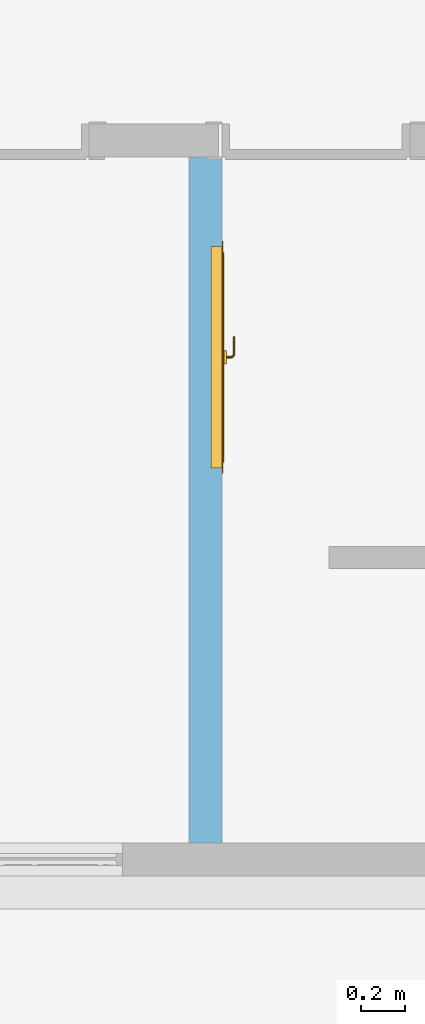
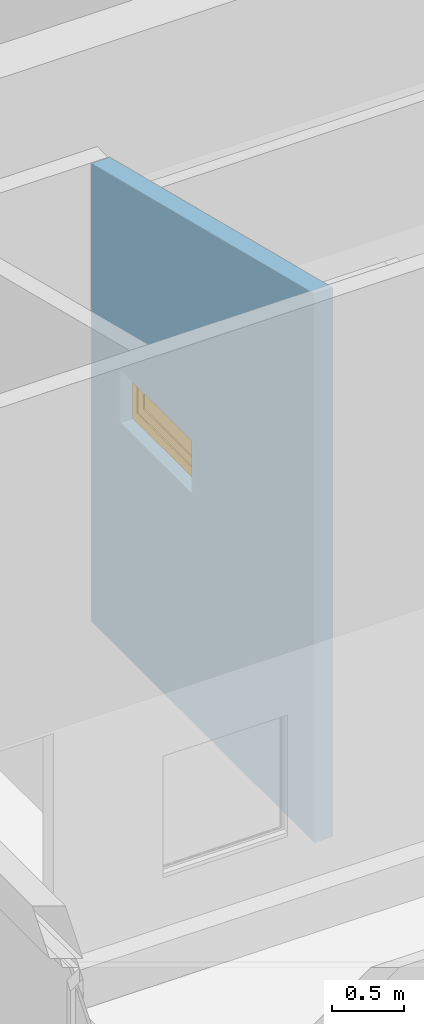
# One storey, part 144 of 153: 1 window, 1 opening, plus 1 element that does not belong to this part.
"""IFC4 building model written with IfcOpenShell, lengths in metres."""

from ifc_helpers import new_model, entity, si_unit, converted_unit, derived_unit, direction, frame, origin, place, context, subcontext, project, spatial, indexed_curve, outline, extrude, polygons, source, transform, mapped, material, constituent, constituent_set, type_object, type_shapes, element, fill, save


model = new_model("IFC4")

# Units and contexts
model_context = context("Model", 3, precision=1e-05, world=origin(), true_north=direction((6.123031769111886e-17, 1.0)))
body_context = subcontext(model_context, "Body", "Model", "MODEL_VIEW")
ifc_project = project(units=[si_unit("LENGTHUNIT", "METRE"), si_unit("AREAUNIT", "SQUARE_METRE"), si_unit("VOLUMEUNIT", "CUBIC_METRE"), converted_unit("PLANEANGLEUNIT", "DEGREE", entity("IfcRatioMeasure", 0.017453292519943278), si_unit("PLANEANGLEUNIT", "RADIAN"), dimensions=[0, 0, 0, 0, 0, 0, 0]), si_unit("MASSUNIT", "GRAM", prefix="KILO"), derived_unit("MASSDENSITYUNIT", [(si_unit("MASSUNIT", "GRAM", prefix="KILO"), 1), (si_unit("LENGTHUNIT", "METRE"), -3)]), derived_unit("MOMENTOFINERTIAUNIT", [(si_unit("LENGTHUNIT", "METRE"), 4)]), si_unit("TIMEUNIT", "SECOND"), si_unit("FREQUENCYUNIT", "HERTZ"), si_unit("THERMODYNAMICTEMPERATUREUNIT", "DEGREE_CELSIUS"), derived_unit("THERMALTRANSMITTANCEUNIT", [(si_unit("MASSUNIT", "GRAM", prefix="KILO"), 1), (si_unit("THERMODYNAMICTEMPERATUREUNIT", "KELVIN"), -1), (si_unit("TIMEUNIT", "SECOND"), -3)]), derived_unit("VOLUMETRICFLOWRATEUNIT", [(si_unit("LENGTHUNIT", "METRE"), 3), (si_unit("TIMEUNIT", "SECOND"), -1)]), derived_unit("MASSFLOWRATEUNIT", [(si_unit("MASSUNIT", "GRAM", prefix="KILO"), 1), (si_unit("TIMEUNIT", "SECOND"), -1)]), derived_unit("ROTATIONALFREQUENCYUNIT", [(si_unit("TIMEUNIT", "SECOND"), -1)]), si_unit("ELECTRICCURRENTUNIT", "AMPERE"), si_unit("ELECTRICVOLTAGEUNIT", "VOLT"), si_unit("POWERUNIT", "WATT"), si_unit("FORCEUNIT", "NEWTON", prefix="KILO"), si_unit("ILLUMINANCEUNIT", "LUX"), si_unit("LUMINOUSFLUXUNIT", "LUMEN"), si_unit("LUMINOUSINTENSITYUNIT", "CANDELA"), derived_unit("USERDEFINED", [(si_unit("MASSUNIT", "GRAM", prefix="KILO"), -1), (si_unit("LENGTHUNIT", "METRE"), -2), (si_unit("TIMEUNIT", "SECOND"), 3), (si_unit("LUMINOUSFLUXUNIT", "LUMEN"), 1)]), derived_unit("SOUNDPOWERUNIT", [(si_unit("MASSUNIT", "GRAM", prefix="KILO"), 1), (si_unit("LENGTHUNIT", "METRE"), 2), (si_unit("TIMEUNIT", "SECOND"), -3)]), derived_unit("SOUNDPRESSUREUNIT", [(si_unit("MASSUNIT", "GRAM", prefix="KILO"), 1), (si_unit("LENGTHUNIT", "METRE"), -1), (si_unit("TIMEUNIT", "SECOND"), -2)]), derived_unit("LINEARVELOCITYUNIT", [(si_unit("LENGTHUNIT", "METRE"), 1), (si_unit("TIMEUNIT", "SECOND"), -1)]), si_unit("PRESSUREUNIT", "PASCAL"), derived_unit("USERDEFINED", [(si_unit("LENGTHUNIT", "METRE"), -2), (si_unit("MASSUNIT", "GRAM", prefix="KILO"), 1), (si_unit("TIMEUNIT", "SECOND"), -2)]), derived_unit("LINEARFORCEUNIT", [(si_unit("MASSUNIT", "GRAM", prefix="KILO"), 1), (si_unit("LENGTHUNIT", "METRE"), 1), (si_unit("TIMEUNIT", "SECOND"), -2), (si_unit("LENGTHUNIT", "METRE"), -1)]), derived_unit("PLANARFORCEUNIT", [(si_unit("MASSUNIT", "GRAM", prefix="KILO"), 1), (si_unit("LENGTHUNIT", "METRE"), 1), (si_unit("TIMEUNIT", "SECOND"), -2), (si_unit("LENGTHUNIT", "METRE"), -2)])], contexts=[model_context])

# Site, building, storey
site_placement = place(None, origin())
site = spatial("IfcSite", under=ifc_project, at=site_placement, Name="Superficie", CompositionType="ELEMENT")
building_placement = place(site_placement, origin())
building = spatial("IfcBuilding", under=site, at=building_placement, CompositionType="ELEMENT")
storey_placement = place(building_placement, frame((0.0, 0.0, 3.5999999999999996)))
storey = spatial("IfcBuildingStorey", under=building, at=storey_placement, Name="Nivel 1", CompositionType="ELEMENT", Elevation=3.5999999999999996)

# Wall, opening, window
ifc_material_1 = material(Name="Muro por defecto", Category="Varios")
wall_type = type_object("IfcWallType", Name="Muro básico:Por defecto - 15 cm 2", PredefinedType="STANDARD")
wall_placement = place(storey_placement, frame((6.656001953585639, 5.775829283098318, 0.5200000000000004), z_axis=(0.0, 0.0, 1.0), x_axis=(0.0, 1.0, 0.0)))
wall = element("IfcWall", 1, at=wall_placement, inside=storey, type_object=wall_type, material=ifc_material_1, Name="Muro básico:Por defecto - 15 cm 2", ObjectType="Muro básico:Por defecto - 15 cm 2", PredefinedType="NOTDEFINED", context=body_context, shape_type="Tessellation", body=[
    polygons([(3.100000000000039, -0.07499999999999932, 3.88212956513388), (4.2231818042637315e-14, -0.07499999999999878, 4.655046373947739), (4.2231818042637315e-14, -0.07499999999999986, -5.414335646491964e-16), (3.100000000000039, -0.07499999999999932, -5.414335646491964e-16), (1.6950000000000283, -0.07500000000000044, 1.93), (1.6950000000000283, -0.07500000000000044, 2.379999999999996), (2.6950000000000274, -0.07499999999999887, 2.379999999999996), (2.6950000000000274, -0.07499999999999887, 1.93), (4.2231818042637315e-14, 0.07500000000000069, 4.655046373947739), (3.1000000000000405, 0.07500000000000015, 3.88212956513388), (3.1000000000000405, 0.07500000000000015, -5.414335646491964e-16), (1.4077272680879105e-14, 0.07500000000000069, -5.414335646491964e-16), (1.6950000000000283, 0.07500000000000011, 2.379999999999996), (1.6950000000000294, 0.07500000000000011, 1.93), (2.6950000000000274, 0.0750000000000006, 1.93), (2.6950000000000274, 0.0750000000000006, 2.379999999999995), (3.100000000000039, -0.06000000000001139, -5.414335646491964e-16)], [[[1, 2, 3, 4], [5, 6, 7, 8]], [[9, 10, 11, 12], [13, 14, 15, 16]], [[2, 1, 10, 9]], [[2, 9, 12, 3]], [[1, 4, 17, 11, 10]], [[5, 14, 13, 6]], [[6, 13, 16, 7]], [[14, 5, 8, 15]], [[4, 3, 12, 11, 17]], [[15, 8, 7, 16]]], closed=True),
])
opening_placement = place(wall_placement, frame((1.6950000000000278, -0.07500000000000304, 1.93)))
opening = element("IfcOpeningElement", 2, at=opening_placement, cuts=wall, Name="Ventana basculante:45 x 100mm 4:1", PredefinedType="OPENING", context=body_context, shape_type="SweptSolid", body=[
    extrude(outline(indexed_curve([(0.0, 2.5738352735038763e-33), (0.44999999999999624, 2.5738352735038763e-33), (0.4499999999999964, 0.9999999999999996), (0.0, 0.9999999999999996), (0.0, 2.5738352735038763e-33)], self_intersect=False)), frame((0.0, 0.0, 0.0), z_axis=(0.0, 1.0, 0.0), x_axis=(0.0, 0.0, 1.0)), (0.0, 0.0, 1.0), 0.14999999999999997),
])
ifc_material_2 = material(Name="<Unnamed>")
ifc_constituent_1 = constituent(ifc_material_2, Name="<Unnamed>")
ifc_material_3 = material(Name="Madera - Castaño", Category="Madera")
ifc_constituent_2 = constituent(ifc_material_3, Name="Madera - Castaño", Category="Madera")
ifc_material_4 = material(Name="Vidrio", Category="Vidrio")
ifc_constituent_3 = constituent(ifc_material_4, Name="Vidrio", Category="Vidrio")
ifc_constituent_set_1 = constituent_set(constituents=[ifc_constituent_1, ifc_constituent_2, ifc_constituent_3], Name="MaterialConstituentSet")
ifc_constituent_4 = constituent(ifc_material_2, Name="Tirador")
ifc_constituent_5 = constituent(ifc_material_3, Name="Marco/montante", Category="Madera")
ifc_constituent_6 = constituent(ifc_material_4, Name="Cristal", Category="Vidrio")
ifc_constituent_7 = constituent(ifc_material_3, Name="Cubrejuntas", Category="Madera")
ifc_constituent_set_2 = constituent_set(constituents=[ifc_constituent_4, ifc_constituent_5, ifc_constituent_6, ifc_constituent_7], Name="MaterialConstituentSet")
window_type = type_object("IfcWindowType", Name="Ventana basculante:45 x 100mm 4", PartitioningType="NOTDEFINED", PredefinedType="WINDOW", material=ifc_constituent_set_2)
shared_shape = source(origin(), body_context, "Body", "Tessellation", [
    polygons([(0.4949999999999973, -0.019999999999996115, 0.07999999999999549), (0.49499999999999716, -0.03900000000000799, 0.0799999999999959), (0.49517037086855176, -0.03900000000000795, 0.08129409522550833), (0.4956698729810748, -0.03900000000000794, 0.08249999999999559), (0.49646446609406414, -0.03900000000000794, 0.08353553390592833), (0.4974999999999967, -0.03900000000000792, 0.08433012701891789), (0.49870590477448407, -0.03900000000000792, 0.08482962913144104), (0.4999999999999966, -0.03900000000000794, 0.08499999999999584), (0.5012940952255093, -0.03900000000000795, 0.0848296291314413), (0.5024999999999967, -0.03900000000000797, 0.08433012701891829), (0.5035355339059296, -0.039000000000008, 0.08353553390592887), (0.5043301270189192, -0.03900000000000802, 0.08249999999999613), (0.5048296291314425, -0.039000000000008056, 0.08129409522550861), (0.5049999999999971, -0.039000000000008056, 0.0799999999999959), (0.5049999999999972, -0.019999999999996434, 0.07999999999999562), (0.5048296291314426, -0.019999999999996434, 0.0812940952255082), (0.5043301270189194, -0.019999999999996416, 0.08249999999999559), (0.5035355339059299, -0.019999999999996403, 0.08353553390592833), (0.5024999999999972, -0.019999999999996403, 0.08433012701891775), (0.5012940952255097, -0.019999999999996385, 0.0848296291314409), (0.4999999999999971, -0.019999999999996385, 0.08499999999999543), (0.49870590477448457, -0.019999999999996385, 0.08482962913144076), (0.49749999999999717, -0.019999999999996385, 0.08433012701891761), (0.4964644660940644, -0.019999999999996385, 0.08353553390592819), (0.495669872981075, -0.019999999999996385, 0.08249999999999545), (0.49517037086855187, -0.019999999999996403, 0.08129409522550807), (0.4951703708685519, -0.019999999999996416, 0.0787059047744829), (0.495669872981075, -0.019999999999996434, 0.07749999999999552), (0.49646446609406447, -0.01999999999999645, 0.07646446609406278), (0.4974999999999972, -0.01999999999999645, 0.07566987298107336), (0.4987059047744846, -0.01999999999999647, 0.0751703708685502), (0.4999999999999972, -0.01999999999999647, 0.07499999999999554), (0.5012940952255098, -0.01999999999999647, 0.0751703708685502), (0.5024999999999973, -0.01999999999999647, 0.07566987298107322), (0.50353553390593, -0.01999999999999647, 0.07646446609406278), (0.5043301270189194, -0.01999999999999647, 0.07749999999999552), (0.5048296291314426, -0.01999999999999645, 0.0787059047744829), (0.5048296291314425, -0.039000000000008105, 0.07870590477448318), (0.5043301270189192, -0.03900000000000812, 0.07749999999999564), (0.5035355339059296, -0.03900000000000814, 0.07646446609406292), (0.5024999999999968, -0.03900000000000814, 0.0756698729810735), (0.5012940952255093, -0.03900000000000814, 0.07517037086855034), (0.4999999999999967, -0.03900000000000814, 0.0749999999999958), (0.4987059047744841, -0.03900000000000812, 0.0751703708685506), (0.49749999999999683, -0.03900000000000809, 0.0756698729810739), (0.49646446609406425, -0.03900000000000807, 0.07646446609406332), (0.49566987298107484, -0.039000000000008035, 0.07749999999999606), (0.49517037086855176, -0.039000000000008, 0.07870590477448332), (0.4978134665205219, -0.04950000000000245, 0.0799999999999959), (0.505499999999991, -0.05718653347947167, 0.07999999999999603), (0.5159999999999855, -0.05999999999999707, 0.07999999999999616), (0.5159999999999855, -0.05982962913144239, 0.08129409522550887), (0.5159999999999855, -0.05933012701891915, 0.08249999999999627), (0.5159999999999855, -0.058535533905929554, 0.083535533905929), (0.5159999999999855, -0.057499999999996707, 0.08433012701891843), (0.5159999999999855, -0.05629409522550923, 0.08482962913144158), (0.5159999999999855, -0.0549999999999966, 0.0849999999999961), (0.5159999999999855, -0.05370590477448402, 0.0848296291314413), (0.5159999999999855, -0.05249999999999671, 0.08433012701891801), (0.5159999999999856, -0.051464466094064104, 0.08353553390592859), (0.5159999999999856, -0.05066987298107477, 0.08249999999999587), (0.5159999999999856, -0.05017037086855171, 0.08129409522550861), (0.5159999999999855, -0.049999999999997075, 0.07999999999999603), (0.5082218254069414, -0.04677817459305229, 0.0799999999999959), (0.4968195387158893, -0.04579061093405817, 0.0799999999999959), (0.5092093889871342, -0.05818046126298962, 0.07999999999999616), (0.495909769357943, -0.04239530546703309, 0.07999999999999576), (0.5126046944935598, -0.059090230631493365, 0.07999999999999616), (0.49545488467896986, -0.04069765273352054, 0.07999999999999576), (0.5143023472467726, -0.059545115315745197, 0.07999999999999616), (0.501496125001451, -0.045627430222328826, 0.08499971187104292), (0.5127988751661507, -0.04867405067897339, 0.07999999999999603), (0.5097965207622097, -0.054666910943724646, 0.08492715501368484), (0.4983088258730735, -0.043810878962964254, 0.08442200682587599), (0.5121968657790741, -0.056343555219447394, 0.08468163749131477), (0.5016567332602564, -0.05334326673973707, 0.07999999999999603), (0.508049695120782, -0.050347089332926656, 0.08451656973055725), (0.50519669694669, -0.04748027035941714, 0.08445711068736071), (0.506610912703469, -0.042889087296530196, 0.07999999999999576), (0.5008697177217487, -0.05055941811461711, 0.08396920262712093), (0.5038310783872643, -0.05322550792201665, 0.08419526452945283), (0.5123303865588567, -0.05102443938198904, 0.08363981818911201), (0.49831337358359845, -0.04731749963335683, 0.08352628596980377), (0.5159999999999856, -0.05017037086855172, 0.07870590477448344), (0.5159999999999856, -0.050669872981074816, 0.07749999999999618), (0.5159999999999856, -0.05146446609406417, 0.07646446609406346), (0.5159999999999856, -0.05249999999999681, 0.07566987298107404), (0.5159999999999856, -0.05370590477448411, 0.07517037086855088), (0.5159999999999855, -0.054999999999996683, 0.07499999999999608), (0.5159999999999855, -0.056294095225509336, 0.0751703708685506), (0.5159999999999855, -0.05749999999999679, 0.07566987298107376), (0.5159999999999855, -0.05853553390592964, 0.0764644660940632), (0.5159999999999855, -0.059330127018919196, 0.07749999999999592), (0.5159999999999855, -0.05982962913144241, 0.07870590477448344), (0.5014961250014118, -0.04562743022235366, 0.07500028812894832), (0.5097965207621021, -0.054666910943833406, 0.07507284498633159), (0.4983088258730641, -0.04381087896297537, 0.07557799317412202), (0.5121968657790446, -0.05634355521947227, 0.07531836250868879), (0.5080496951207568, -0.050347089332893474, 0.07548343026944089), (0.5051966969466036, -0.04748027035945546, 0.07554288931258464), (0.5008697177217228, -0.050559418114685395, 0.07603079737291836), (0.5038310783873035, -0.053225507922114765, 0.0758047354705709), (0.5123303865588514, -0.0510244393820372, 0.07636018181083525), (0.49831337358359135, -0.04731749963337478, 0.07647371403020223), (0.594999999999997, -0.059999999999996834, 0.07999999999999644), (0.594999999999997, -0.05982962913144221, 0.07870590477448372), (0.594999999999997, -0.05933012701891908, 0.07749999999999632), (0.5949999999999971, -0.05853553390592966, 0.0764644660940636), (0.5949999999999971, -0.057499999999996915, 0.07566987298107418), (0.5949999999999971, -0.05629409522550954, 0.07517037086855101), (0.5949999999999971, -0.05499999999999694, 0.07499999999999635), (0.5949999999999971, -0.05370590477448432, 0.07517037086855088), (0.5949999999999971, -0.05249999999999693, 0.07566987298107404), (0.5949999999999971, -0.05146446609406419, 0.07646446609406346), (0.5949999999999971, -0.0506698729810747, 0.07749999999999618), (0.5949999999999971, -0.05017037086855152, 0.07870590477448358), (0.5949999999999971, -0.04999999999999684, 0.0799999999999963), (0.5949999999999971, -0.05017037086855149, 0.08129409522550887), (0.5949999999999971, -0.05066987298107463, 0.08249999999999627), (0.5949999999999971, -0.05146446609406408, 0.083535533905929), (0.5949999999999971, -0.05249999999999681, 0.08433012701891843), (0.5949999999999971, -0.053705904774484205, 0.08482962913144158), (0.594999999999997, -0.0549999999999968, 0.08499999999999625), (0.594999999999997, -0.0562940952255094, 0.08482962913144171), (0.594999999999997, -0.05749999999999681, 0.08433012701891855), (0.594999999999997, -0.058535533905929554, 0.083535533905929), (0.594999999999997, -0.05933012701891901, 0.08249999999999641), (0.594999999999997, -0.05982962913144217, 0.08129409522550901), (0.469999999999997, -0.019999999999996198, 0.09499999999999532), (0.46999999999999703, -0.019999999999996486, 0.06499999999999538), (0.5299999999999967, -0.019999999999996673, 0.0649999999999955), (0.5299999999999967, -0.019999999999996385, 0.09499999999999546), (0.46999999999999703, -0.009999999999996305, 0.09499999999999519), (0.5299999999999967, -0.00999999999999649, 0.09499999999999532), (0.5299999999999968, -0.009999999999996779, 0.06499999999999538), (0.4699999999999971, -0.009999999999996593, 0.06499999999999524)], [[[3, 26, 1, 2]], [[4, 25, 26, 3]], [[24, 5, 6, 23]], [[4, 5, 24, 25]], [[23, 6, 7, 22]], [[22, 7, 8, 21]], [[10, 19, 20, 9]], [[11, 18, 19, 10]], [[17, 12, 13, 16]], [[11, 12, 17, 18]], [[16, 13, 14, 15]], [[20, 21, 8, 9]], [[38, 37, 15, 14]], [[39, 36, 37, 38]], [[35, 40, 41, 34]], [[39, 40, 35, 36]], [[34, 41, 42, 33]], [[33, 42, 43, 32]], [[45, 30, 31, 44]], [[46, 29, 30, 45]], [[28, 47, 48, 27]], [[46, 47, 28, 29]], [[27, 48, 2, 1]], [[31, 32, 43, 44]], [[3, 69, 4]], [[83, 71, 74]], [[76, 50, 81]], [[80, 76, 81]], [[6, 5, 67]], [[4, 67, 5]], [[73, 66, 75]], [[74, 6, 67]], [[6, 74, 7]], [[72, 64, 77]], [[13, 71, 79]], [[14, 13, 79]], [[58, 75, 57]], [[74, 71, 11]], [[9, 8, 74]], [[79, 71, 78]], [[68, 70, 53]], [[74, 11, 10]], [[68, 53, 54]], [[80, 71, 83]], [[71, 12, 11]], [[53, 70, 52]], [[9, 74, 10]], [[7, 74, 8]], [[12, 71, 13]], [[73, 81, 50]], [[57, 75, 56]], [[55, 56, 75]], [[83, 65, 49]], [[75, 58, 59]], [[65, 83, 74]], [[54, 55, 68]], [[78, 77, 64]], [[55, 75, 68]], [[78, 64, 79]], [[52, 70, 51]], [[78, 81, 77]], [[66, 68, 75]], [[67, 65, 74]], [[49, 76, 80]], [[80, 78, 71]], [[50, 66, 73]], [[69, 67, 4]], [[82, 62, 63]], [[77, 73, 82]], [[75, 60, 73]], [[63, 72, 82]], [[82, 60, 61]], [[3, 2, 69]], [[61, 62, 82]], [[75, 59, 60]], [[80, 81, 78]], [[82, 73, 60]], [[73, 77, 81]], [[80, 83, 49]], [[77, 82, 72]], [[96, 103, 86]], [[72, 63, 103]], [[42, 97, 43]], [[41, 40, 97]], [[104, 65, 97]], [[70, 68, 93]], [[39, 95, 40]], [[94, 51, 70]], [[95, 39, 38]], [[102, 100, 99]], [[65, 67, 97]], [[95, 97, 40]], [[69, 2, 48]], [[65, 104, 49]], [[101, 104, 95]], [[45, 67, 46]], [[97, 44, 43]], [[66, 96, 98]], [[45, 97, 67]], [[44, 97, 45]], [[42, 41, 97]], [[100, 101, 95]], [[79, 64, 100]], [[102, 101, 100]], [[95, 79, 100]], [[99, 103, 96]], [[72, 103, 99]], [[95, 38, 79]], [[68, 66, 98]], [[84, 103, 63]], [[86, 87, 98]], [[67, 47, 46]], [[50, 96, 66]], [[67, 69, 47]], [[47, 69, 48]], [[88, 98, 87]], [[102, 96, 50]], [[98, 88, 89]], [[98, 90, 91]], [[64, 72, 99]], [[92, 68, 91]], [[91, 68, 98]], [[104, 97, 95]], [[96, 86, 98]], [[93, 94, 70]], [[100, 64, 99]], [[86, 103, 85]], [[96, 102, 99]], [[14, 79, 38]], [[93, 68, 92]], [[90, 98, 89]], [[49, 104, 101]], [[50, 76, 102]], [[102, 76, 101]], [[85, 103, 84]], [[49, 101, 76]], [[109, 110, 111, 112, 113, 114, 115, 116, 117, 118, 119, 120, 121, 122, 123, 124, 125, 126, 127, 128, 105, 106, 107, 108]], [[132, 131, 135, 134]], [[51, 105, 128, 52]], [[127, 53, 52, 128]], [[54, 126, 125, 55]], [[127, 126, 54, 53]], [[55, 125, 124, 56]], [[56, 124, 123, 57]], [[121, 120, 60, 59]], [[122, 121, 59, 58]], [[118, 117, 63, 62]], [[119, 118, 62, 61]], [[120, 119, 61, 60]], [[58, 57, 123, 122]], [[63, 117, 116, 84]], [[84, 116, 115, 85]], [[113, 112, 88, 87]], [[114, 113, 87, 86]], [[115, 114, 86, 85]], [[88, 112, 111, 89]], [[109, 108, 92, 91]], [[110, 109, 91, 90]], [[106, 105, 51, 94]], [[107, 106, 94, 93]], [[108, 107, 93, 92]], [[90, 89, 111, 110]], [[129, 130, 131, 132], [22, 21, 20, 19, 18, 17, 16, 15, 37, 36, 35, 34, 33, 32, 31, 30, 29, 28, 27, 1, 26, 25, 24, 23]], [[135, 136, 133, 134]], [[130, 129, 133, 136]], [[131, 130, 136, 135]], [[129, 132, 134, 133]]], closed=True),
    polygons([(0.03499999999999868, 0.0399999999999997, 0.4149999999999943), (0.03499999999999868, -4.2299497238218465e-17, 0.4149999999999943), (0.03499999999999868, -4.2299497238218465e-17, 0.05499999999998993), (0.03499999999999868, 0.0399999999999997, 0.05499999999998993), (0.9649999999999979, -4.2299497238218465e-17, 0.4149999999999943), (0.9649999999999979, -4.2299497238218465e-17, 0.05499999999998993), (-1.218225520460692e-15, -4.2299497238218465e-17, 0.44999999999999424), (-1.218225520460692e-15, -4.2299497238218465e-17, -8.256861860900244e-15), (0.9999999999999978, -4.2299497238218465e-17, -8.256861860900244e-15), (0.9999999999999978, -4.2299497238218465e-17, 0.44999999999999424), (0.9649999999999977, 0.0399999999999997, 0.05499999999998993), (0.9649999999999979, 0.0399999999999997, 0.4149999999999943), (0.05999999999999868, 0.0399999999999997, 0.0799999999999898), (0.05999999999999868, 0.0399999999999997, 0.3899999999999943), (0.9399999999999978, 0.0399999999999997, 0.3899999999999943), (0.9399999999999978, 0.0399999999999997, 0.07999999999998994), (0.05999999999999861, 0.04999999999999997, 0.3899999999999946), (0.9399999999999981, 0.04999999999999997, 0.3899999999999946), (0.05999999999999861, 0.04999999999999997, 0.07999999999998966), (0.9399999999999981, 0.04999999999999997, 0.0799999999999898), (-1.218225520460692e-15, 0.050000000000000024, -8.256861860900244e-15), (-1.218225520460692e-15, 0.04999999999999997, 0.44999999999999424), (0.9999999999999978, 0.04999999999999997, 0.44999999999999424), (0.9999999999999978, 0.05, -8.256861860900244e-15)], [[[1, 2, 3, 4]], [[7, 8, 9, 10], [3, 2, 5, 6]], [[4, 3, 6, 11]], [[1, 4, 11, 12], [13, 14, 15, 16]], [[14, 17, 18, 15]], [[17, 14, 13, 19]], [[19, 13, 16, 20]], [[21, 22, 23, 24], [17, 19, 20, 18]], [[7, 22, 21, 8]], [[24, 9, 8, 21]], [[11, 6, 5, 12]], [[20, 16, 15, 18]], [[23, 10, 9, 24]], [[2, 1, 12, 5]], [[22, 7, 10, 23]]], closed=True),
    polygons([(0.8650000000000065, 0.04000000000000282, 0.31499999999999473), (0.13499999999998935, 0.04000000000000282, 0.31499999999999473), (0.13499999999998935, 0.026000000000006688, 0.31499999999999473), (0.8650000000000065, 0.026000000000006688, 0.31499999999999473), (0.8650000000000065, 0.04000000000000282, 0.15499999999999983), (0.8650000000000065, 0.026000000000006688, 0.15499999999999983), (0.13499999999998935, 0.026000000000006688, 0.15499999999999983), (0.13499999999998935, 0.04000000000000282, 0.15499999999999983)], [[[1, 2, 3, 4]], [[5, 6, 7, 8]], [[2, 1, 5, 8]], [[3, 2, 8, 7]], [[4, 3, 7, 6]], [[1, 4, 6, 5]]], closed=True),
    polygons([(0.12499999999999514, -2.6225688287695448e-15, 0.32499999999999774), (0.12499999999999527, 0.026000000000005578, 0.32499999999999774), (0.1249999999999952, 0.026000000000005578, 0.14499999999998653), (0.12499999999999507, -2.6310287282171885e-15, 0.1449999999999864), (0.14999999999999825, 0.026000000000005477, 0.2999999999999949), (0.14999999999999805, -2.724087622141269e-15, 0.2999999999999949), (0.14999999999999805, -2.724087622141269e-15, 0.16999999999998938), (0.14999999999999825, 0.026000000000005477, 0.16999999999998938), (0.8750000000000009, 0.026000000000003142, 0.14499999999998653), (0.8750000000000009, -5.067479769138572e-15, 0.14499999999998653), (0.8499999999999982, -4.9575010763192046e-15, 0.16999999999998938), (0.8499999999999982, 0.0260000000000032, 0.16999999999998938), (0.8750000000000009, 0.026000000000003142, 0.32499999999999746), (0.8750000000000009, -5.059019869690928e-15, 0.32499999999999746), (0.8499999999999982, -4.982880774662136e-15, 0.2999999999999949), (0.8499999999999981, 0.026000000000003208, 0.2999999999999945)], [[[1, 2, 3, 4]], [[5, 6, 7, 8]], [[4, 3, 9, 10]], [[8, 7, 11, 12]], [[10, 9, 13, 14]], [[12, 11, 15, 16]], [[14, 13, 2, 1]], [[4, 10, 14, 1], [6, 15, 11, 7]], [[16, 15, 6, 5]], [[2, 13, 9, 3], [8, 12, 16, 5]]], closed=True),
    polygons([(0.08499999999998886, -5.921929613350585e-17, 0.36500000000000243), (0.08499999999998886, 0.040000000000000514, 0.36500000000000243), (0.08499999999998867, 0.040000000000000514, 0.10499999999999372), (0.08499999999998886, 4.906741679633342e-16, 0.10499999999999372), (0.12499999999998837, 0.04000000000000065, 0.32500000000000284), (0.12499999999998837, 5.921929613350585e-17, 0.32500000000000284), (0.12499999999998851, 5.921929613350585e-17, 0.1449999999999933), (0.12499999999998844, 0.04000000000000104, 0.1449999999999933), (0.1499999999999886, 0.050000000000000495, 0.3000000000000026), (0.14999999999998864, 0.040000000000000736, 0.3000000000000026), (0.14999999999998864, 0.040000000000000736, 0.1699999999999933), (0.1499999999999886, 0.050000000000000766, 0.1699999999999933), (0.07499999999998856, 0.04000000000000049, 0.3750000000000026), (0.07499999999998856, 0.05000000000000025, 0.3750000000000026), (0.07499999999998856, 0.05000000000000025, 0.09499999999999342), (0.07499999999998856, 0.04000000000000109, 0.09499999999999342), (0.9150000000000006, 0.040000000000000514, 0.10499999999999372), (0.9150000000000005, 4.906741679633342e-16, 0.10499999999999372), (0.8750000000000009, 5.921929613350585e-17, 0.1449999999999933), (0.8750000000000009, 0.04000000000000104, 0.1449999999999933), (0.8500000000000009, 0.040000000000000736, 0.16999999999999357), (0.8500000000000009, 0.050000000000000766, 0.1699999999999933), (0.9250000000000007, 0.05000000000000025, 0.09499999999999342), (0.9250000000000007, 0.04000000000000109, 0.09499999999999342), (0.9150000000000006, 0.040000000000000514, 0.36500000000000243), (0.9150000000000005, -5.921929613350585e-17, 0.36500000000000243), (0.8750000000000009, 5.921929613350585e-17, 0.32500000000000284), (0.875000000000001, 0.04000000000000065, 0.32500000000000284), (0.8500000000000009, 0.040000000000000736, 0.3000000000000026), (0.8500000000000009, 0.050000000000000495, 0.3000000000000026), (0.9250000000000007, 0.05000000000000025, 0.37500000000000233), (0.9250000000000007, 0.04000000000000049, 0.37500000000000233)], [[[1, 2, 3, 4]], [[5, 6, 7, 8]], [[9, 10, 11, 12]], [[13, 14, 15, 16]], [[4, 3, 17, 18]], [[8, 7, 19, 20]], [[12, 11, 21, 22]], [[16, 15, 23, 24]], [[18, 17, 25, 26]], [[20, 19, 27, 28]], [[22, 21, 29, 30]], [[24, 23, 31, 32]], [[26, 25, 2, 1]], [[4, 18, 26, 1], [6, 27, 19, 7]], [[28, 27, 6, 5]], [[8, 20, 28, 5], [10, 29, 21, 11]], [[30, 29, 10, 9]], [[14, 31, 23, 15], [12, 22, 30, 9]], [[32, 31, 14, 13]], [[16, 24, 32, 13], [2, 25, 17, 3]]], closed=True),
    polygons([(0.9150000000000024, 0.04000000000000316, 0.3650000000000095), (0.9150000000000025, 3.392419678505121e-15, 0.36500000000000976), (0.08499999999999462, 6.065747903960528e-15, 0.36500000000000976), (0.0849999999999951, 0.04000000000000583, 0.3650000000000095), (0.08499999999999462, 6.065747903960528e-15, 0.10499999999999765), (0.08499999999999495, 0.04000000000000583, 0.10499999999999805), (0.9150000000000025, 3.392419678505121e-15, 0.10499999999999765), (0.0949999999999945, 4.9321213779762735e-15, 0.11499999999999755), (0.9050000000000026, 2.3264723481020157e-15, 0.11499999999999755), (0.9050000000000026, 3.3416602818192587e-15, 0.35500000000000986), (0.0949999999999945, 5.964229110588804e-15, 0.35500000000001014), (0.9150000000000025, 0.04000000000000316, 0.10499999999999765), (0.04999999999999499, 0.040000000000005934, 0.4000000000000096), (0.9500000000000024, 0.04000000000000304, 0.4000000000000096), (0.9500000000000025, 0.04000000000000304, 0.0699999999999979), (0.04999999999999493, 0.040000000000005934, 0.06999999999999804), (0.9050000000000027, -0.00999999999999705, 0.35500000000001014), (0.09499999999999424, -0.009999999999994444, 0.35500000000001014), (0.09499999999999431, -0.009999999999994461, 0.11499999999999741), (0.9050000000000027, -0.009999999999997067, 0.11499999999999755), (0.02499999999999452, -0.009999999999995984, 0.04499999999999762), (0.9750000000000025, -0.009999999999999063, 0.04499999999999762), (0.9750000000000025, -0.009999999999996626, 0.42500000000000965), (0.02499999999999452, -0.009999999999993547, 0.42500000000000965), (0.024999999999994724, 6.446443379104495e-15, 0.42500000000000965), (0.024999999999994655, 6.437983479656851e-15, 0.04499999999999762), (0.04999999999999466, 4.788303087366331e-15, 0.06999999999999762), (0.9500000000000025, 1.8780976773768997e-15, 0.06999999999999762), (0.9500000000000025, 3.2993607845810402e-15, 0.4000000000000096), (0.04999999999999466, 6.2011062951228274e-15, 0.4000000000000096), (0.9750000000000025, 3.392419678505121e-15, 0.42500000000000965), (0.9750000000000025, 3.392419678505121e-15, 0.04499999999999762)], [[[1, 2, 3, 4]], [[4, 3, 5, 6]], [[3, 2, 7, 5], [8, 9, 10, 11]], [[6, 5, 7, 12]], [[13, 14, 15, 16], [6, 12, 1, 4]], [[10, 17, 18, 11]], [[11, 18, 19, 8]], [[21, 22, 23, 24], [18, 17, 20, 19]], [[8, 19, 20, 9]], [[24, 25, 26, 21]], [[25, 31, 32, 26], [27, 28, 29, 30]], [[21, 26, 32, 22]], [[30, 13, 16, 27]], [[27, 16, 15, 28]], [[12, 7, 2, 1]], [[9, 20, 17, 10]], [[22, 32, 31, 23]], [[28, 15, 14, 29]], [[29, 14, 13, 30]], [[23, 31, 25, 24]]], closed=True),
    polygons([(1.0250092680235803, -4.416067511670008e-15, 0.4750092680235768), (1.0250092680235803, -0.005000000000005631, 0.4750092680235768), (1.0250092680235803, -0.005000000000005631, -0.025009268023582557), (1.0250092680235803, -4.390687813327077e-15, -0.025009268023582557), (0.9899907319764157, -0.005000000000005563, 0.010009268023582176), (0.010009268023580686, -0.005000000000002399, 0.010009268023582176), (0.010009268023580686, -0.005000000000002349, 0.43999073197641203), (0.9899907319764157, -0.005000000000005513, 0.43999073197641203), (-0.025009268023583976, -0.00500000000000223, 0.4750092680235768), (-0.025009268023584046, -0.00500000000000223, -0.025009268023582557), (-0.025009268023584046, -9.89808235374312e-16, -0.025009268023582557), (-0.025009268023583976, -1.0236478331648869e-15, 0.4750092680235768), (0.9899907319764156, -4.30608881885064e-15, 0.43999073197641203), (0.010009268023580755, -1.133626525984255e-15, 0.43999073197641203), (0.010009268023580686, -1.133626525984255e-15, 0.010009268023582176), (0.9899907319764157, -4.30608881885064e-15, 0.010009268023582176)], [[[1, 2, 3, 4]], [[2, 9, 10, 3], [5, 6, 7, 8]], [[4, 3, 10, 11]], [[4, 11, 12, 1], [13, 14, 15, 16]], [[8, 13, 16, 5]], [[5, 16, 15, 6]], [[11, 10, 9, 12]], [[6, 15, 14, 7]], [[12, 9, 2, 1]], [[7, 14, 13, 8]]], closed=True),
])
type_shapes(window_type, [shared_shape])
window_placement = place(opening_placement, origin())
window = element("IfcWindow", 3, at=window_placement, inside=storey, type_object=window_type, material=ifc_constituent_set_1, Name="Ventana basculante:45 x 100mm 4", ObjectType="Ventana basculante:45 x 100mm 4", OverallHeight=0.44999999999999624, OverallWidth=1.0, PartitioningType="NOTDEFINED", PredefinedType="WINDOW", context=body_context, shape_type="MappedRepresentation", body=[
    mapped(shared_shape, transform((0.0, 0.0, 0.0), scale=1.0)),
])
fill(opening, window)

save(model, "model.ifc")
